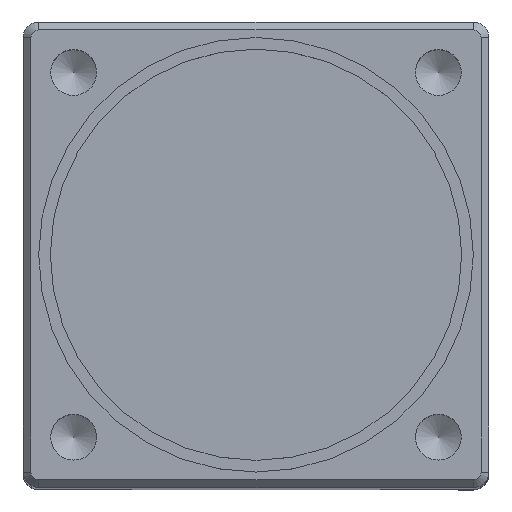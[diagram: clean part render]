
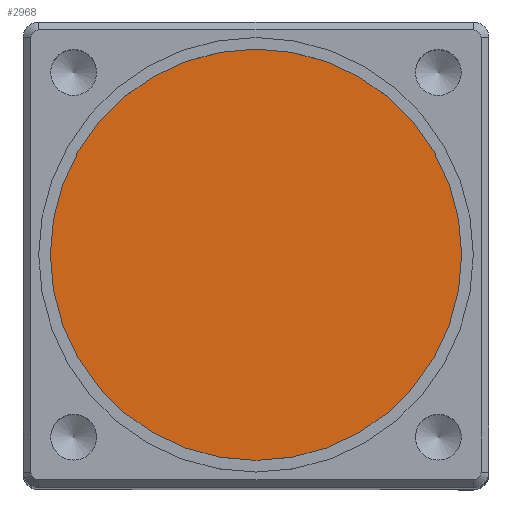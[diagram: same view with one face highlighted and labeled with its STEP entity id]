
A CAD part, top view. The second image highlights one B-rep face of the part: STEP entity #2968.
In plain terms, the highlighted planar face has unit normal (0, 0, 1).
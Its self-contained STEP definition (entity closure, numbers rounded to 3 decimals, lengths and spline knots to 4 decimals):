
#312=PLANE('',#3387);
#468=FACE_OUTER_BOUND('',#684,.T.);
#684=EDGE_LOOP('',(#2750));
#811=CIRCLE('',#3385,5.6);
#1538=VERTEX_POINT('',#42904);
#1941=EDGE_CURVE('',#1538,#1538,#811,.T.);
#2750=ORIENTED_EDGE('',*,*,#1941,.T.);
#2968=ADVANCED_FACE('',(#468),#312,.T.);
#3385=AXIS2_PLACEMENT_3D('',#42905,#4145,#4146);
#3387=AXIS2_PLACEMENT_3D('',#42909,#4150,#4151);
#4145=DIRECTION('center_axis',(0.,0.,1.));
#4146=DIRECTION('ref_axis',(1.,0.,0.));
#4150=DIRECTION('center_axis',(0.,0.,1.));
#4151=DIRECTION('ref_axis',(1.,0.,0.));
#42904=CARTESIAN_POINT('',(-5.6,0.,34.75));
#42905=CARTESIAN_POINT('Origin',(0.,0.,
34.75));
#42909=CARTESIAN_POINT('Origin',(0.,0.,34.75));
